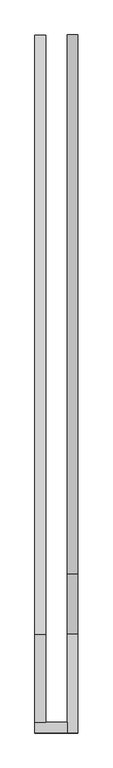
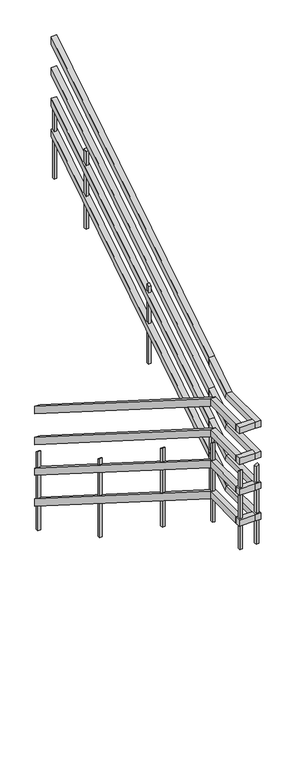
"""IFC4 building model written with IfcOpenShell, lengths in millimetres: railing geometry, RL780-금속재 난간."""

from ifc_helpers import new_model, si_unit, frame, origin, place, context, project, spatial, polyline, outline, extrude, faceted_brep, source, transform, mapped, element, save


def railing_68b9123f(model_context):
    return source(origin(), model_context, "Body", "SolidModel", [
        faceted_brep([(1249.8430136, 5200.0, 12531.8181818), (1299.8430136, 5200.0, 12531.8181818), (1299.8430136, 5200.0, 12460.8040061), (1249.8430136, 5200.0, 12460.8040061), (1249.8430136, 2400.0, 14304.5454545), (1249.8430136, 2400.0, 14233.5312788), (1299.8430136, 2400.0, 14233.5312788), (1299.8430136, 2400.0, 14304.5454545)], [[[0, 1, 2, 3]], [[4, 5, 6, 7]], [[1, 0, 4, 7]], [[2, 1, 7, 6]], [[3, 2, 6, 5]], [[0, 3, 5, 4]]]),
        faceted_brep([(1249.8430136, 5200.0, 12231.8181818), (1299.8430136, 5200.0, 12231.8181818), (1299.8430136, 5200.0, 12160.8040061), (1249.8430136, 5200.0, 12160.8040061), (1249.8430136, 2400.0, 14004.5454545), (1249.8430136, 2400.0, 13933.5312788), (1299.8430136, 2400.0, 13933.5312788), (1299.8430136, 2400.0, 14004.5454545)], [[[0, 1, 2, 3]], [[4, 5, 6, 7]], [[1, 0, 4, 7]], [[2, 1, 7, 6]], [[3, 2, 6, 5]], [[0, 3, 5, 4]]]),
        faceted_brep([(1249.8430136, 5200.0, 11931.8181818), (1299.8430136, 5200.0, 11931.8181818), (1299.8430136, 5200.0, 11860.8040061), (1249.8430136, 5200.0, 11860.8040061), (1249.8430136, 2400.0, 13704.5454545), (1249.8430136, 2400.0, 13633.5312788), (1299.8430136, 2400.0, 13633.5312788), (1299.8430136, 2400.0, 13704.5454545)], [[[0, 1, 2, 3]], [[4, 5, 6, 7]], [[1, 0, 4, 7]], [[2, 1, 7, 6]], [[3, 2, 6, 5]], [[0, 3, 5, 4]]]),
        faceted_brep([(1249.8430136, 5200.0, 11631.8181818), (1299.8430136, 5200.0, 11631.8181818), (1299.8430136, 5200.0, 11560.8040061), (1249.8430136, 5200.0, 11560.8040061), (1249.8430136, 2400.0, 13404.5454545), (1249.8430136, 2400.0, 13333.5312788), (1299.8430136, 2400.0, 13333.5312788), (1299.8430136, 2400.0, 13404.5454545)], [[[0, 1, 2, 3]], [[4, 5, 6, 7]], [[1, 0, 4, 7]], [[2, 1, 7, 6]], [[3, 2, 6, 5]], [[0, 3, 5, 4]]]),
        faceted_brep([(1249.8430136, 2400.0, 14304.5454545), (1299.8430136, 2400.0, 14304.5454545), (1299.8430136, 2400.0, 14244.5454545), (1249.8430136, 2400.0, 14244.5454545), (1249.8430136, 1987.4980432, 14304.5454545), (1249.8430136, 1987.4980432, 14244.5454545), (1299.8430136, 1987.4980432, 14244.5454545), (1299.8430136, 1987.4980432, 14304.5454545)], [[[0, 1, 2, 3]], [[4, 5, 6, 7]], [[1, 0, 4, 7]], [[2, 1, 7, 6]], [[3, 2, 6, 5]], [[0, 3, 5, 4]]]),
        faceted_brep([(1249.8430136, 1937.4980432, 14304.5454545), (1249.8430136, 1987.4980432, 14304.5454545), (1249.8430136, 1987.4980432, 14244.5454545), (1249.8430136, 1937.4980432, 14244.5454545), (1400.6430136, 1937.4980432, 14304.5454545), (1400.6430136, 1937.4980432, 14244.5454545), (1400.6430136, 1987.4980432, 14244.5454545), (1400.6430136, 1987.4980432, 14304.5454545)], [[[0, 1, 2, 3]], [[4, 5, 6, 7]], [[1, 0, 4, 7]], [[2, 1, 7, 6]], [[3, 2, 6, 5]], [[0, 3, 5, 4]]]),
        faceted_brep([(1450.6430136, 1937.4980432, 14304.5454545), (1400.6430136, 1937.4980432, 14304.5454545), (1400.6430136, 1937.4980432, 14244.5454545), (1450.6430136, 1937.4980432, 14244.5454545), (1450.6430136, 2400.0, 14304.5454545), (1400.6430136, 2400.0, 14304.5454545), (1400.6430136, 2417.3967494, 14244.5454545), (1450.6430136, 2680.0, 14481.8181818), (1450.6430136, 2680.0, 14410.8040061), (1400.6430136, 2680.0, 14410.8040061), (1400.6430136, 2680.0, 14481.8181818), (1450.6430136, 2417.3967494, 14244.5454545)], [[[0, 1, 2, 3]], [[1, 0, 4, 5]], [[2, 1, 5, 6]], [[7, 8, 9, 10]], [[5, 4, 7, 10]], [[6, 5, 10, 9]], [[3, 2, 6, 11]], [[0, 3, 11, 4]], [[11, 6, 9, 8]], [[4, 11, 8, 7]]]),
        faceted_brep([(1450.6430136, 2680.0, 14481.8181818), (1400.6430136, 2680.0, 14481.8181818), (1400.6430136, 2680.0, 14410.8040061), (1450.6430136, 2680.0, 14410.8040061), (1450.6430136, 5200.0, 16077.2727273), (1450.6430136, 5200.0, 16006.2585515), (1400.6430136, 5200.0, 16006.2585515), (1400.6430136, 5200.0, 16077.2727273)], [[[0, 1, 2, 3]], [[4, 5, 6, 7]], [[1, 0, 4, 7]], [[2, 1, 7, 6]], [[3, 2, 6, 5]], [[0, 3, 5, 4]]]),
        faceted_brep([(1249.8430136, 2400.0, 14004.5454545), (1299.8430136, 2400.0, 14004.5454545), (1299.8430136, 2400.0, 13944.5454545), (1249.8430136, 2400.0, 13944.5454545), (1249.8430136, 1987.4980432, 14004.5454545), (1249.8430136, 1987.4980432, 13944.5454545), (1299.8430136, 1987.4980432, 13944.5454545), (1299.8430136, 1987.4980432, 14004.5454545)], [[[0, 1, 2, 3]], [[4, 5, 6, 7]], [[1, 0, 4, 7]], [[2, 1, 7, 6]], [[3, 2, 6, 5]], [[0, 3, 5, 4]]]),
        faceted_brep([(1249.8430136, 1937.4980432, 14004.5454545), (1249.8430136, 1987.4980432, 14004.5454545), (1249.8430136, 1987.4980432, 13944.5454545), (1249.8430136, 1937.4980432, 13944.5454545), (1400.6430136, 1937.4980432, 14004.5454545), (1400.6430136, 1937.4980432, 13944.5454545), (1400.6430136, 1987.4980432, 13944.5454545), (1400.6430136, 1987.4980432, 14004.5454545)], [[[0, 1, 2, 3]], [[4, 5, 6, 7]], [[1, 0, 4, 7]], [[2, 1, 7, 6]], [[3, 2, 6, 5]], [[0, 3, 5, 4]]]),
        faceted_brep([(1450.6430136, 1937.4980432, 14004.5454545), (1400.6430136, 1937.4980432, 14004.5454545), (1400.6430136, 1937.4980432, 13944.5454545), (1450.6430136, 1937.4980432, 13944.5454545), (1450.6430136, 2400.0, 14004.5454545), (1400.6430136, 2400.0, 14004.5454545), (1400.6430136, 2417.3967494, 13944.5454545), (1450.6430136, 2680.0, 14181.8181818), (1450.6430136, 2680.0, 14110.8040061), (1400.6430136, 2680.0, 14110.8040061), (1400.6430136, 2680.0, 14181.8181818), (1450.6430136, 2417.3967494, 13944.5454545)], [[[0, 1, 2, 3]], [[1, 0, 4, 5]], [[2, 1, 5, 6]], [[7, 8, 9, 10]], [[5, 4, 7, 10]], [[6, 5, 10, 9]], [[3, 2, 6, 11]], [[0, 3, 11, 4]], [[11, 6, 9, 8]], [[4, 11, 8, 7]]]),
        faceted_brep([(1450.6430136, 2680.0, 14181.8181818), (1400.6430136, 2680.0, 14181.8181818), (1400.6430136, 2680.0, 14110.8040061), (1450.6430136, 2680.0, 14110.8040061), (1450.6430136, 5200.0, 15777.2727273), (1450.6430136, 5200.0, 15706.2585515), (1400.6430136, 5200.0, 15706.2585515), (1400.6430136, 5200.0, 15777.2727273)], [[[0, 1, 2, 3]], [[4, 5, 6, 7]], [[1, 0, 4, 7]], [[2, 1, 7, 6]], [[3, 2, 6, 5]], [[0, 3, 5, 4]]]),
        faceted_brep([(1249.8430136, 2400.0, 13704.5454545), (1299.8430136, 2400.0, 13704.5454545), (1299.8430136, 2400.0, 13644.5454545), (1249.8430136, 2400.0, 13644.5454545), (1249.8430136, 1987.4980432, 13704.5454545), (1249.8430136, 1987.4980432, 13644.5454545), (1299.8430136, 1987.4980432, 13644.5454545), (1299.8430136, 1987.4980432, 13704.5454545)], [[[0, 1, 2, 3]], [[4, 5, 6, 7]], [[1, 0, 4, 7]], [[2, 1, 7, 6]], [[3, 2, 6, 5]], [[0, 3, 5, 4]]]),
        faceted_brep([(1249.8430136, 1937.4980432, 13704.5454545), (1249.8430136, 1987.4980432, 13704.5454545), (1249.8430136, 1987.4980432, 13644.5454545), (1249.8430136, 1937.4980432, 13644.5454545), (1400.6430136, 1937.4980432, 13704.5454545), (1400.6430136, 1937.4980432, 13644.5454545), (1400.6430136, 1987.4980432, 13644.5454545), (1400.6430136, 1987.4980432, 13704.5454545)], [[[0, 1, 2, 3]], [[4, 5, 6, 7]], [[1, 0, 4, 7]], [[2, 1, 7, 6]], [[3, 2, 6, 5]], [[0, 3, 5, 4]]]),
        faceted_brep([(1450.6430136, 1937.4980432, 13704.5454545), (1400.6430136, 1937.4980432, 13704.5454545), (1400.6430136, 1937.4980432, 13644.5454545), (1450.6430136, 1937.4980432, 13644.5454545), (1450.6430136, 2400.0, 13704.5454545), (1400.6430136, 2400.0, 13704.5454545), (1400.6430136, 2417.3967494, 13644.5454545), (1450.6430136, 2680.0, 13881.8181818), (1450.6430136, 2680.0, 13810.8040061), (1400.6430136, 2680.0, 13810.8040061), (1400.6430136, 2680.0, 13881.8181818), (1450.6430136, 2417.3967494, 13644.5454545)], [[[0, 1, 2, 3]], [[1, 0, 4, 5]], [[2, 1, 5, 6]], [[7, 8, 9, 10]], [[5, 4, 7, 10]], [[6, 5, 10, 9]], [[3, 2, 6, 11]], [[0, 3, 11, 4]], [[11, 6, 9, 8]], [[4, 11, 8, 7]]]),
        faceted_brep([(1450.6430136, 2680.0, 13881.8181818), (1400.6430136, 2680.0, 13881.8181818), (1400.6430136, 2680.0, 13810.8040061), (1450.6430136, 2680.0, 13810.8040061), (1450.6430136, 5200.0, 15477.2727273), (1450.6430136, 5200.0, 15406.2585515), (1400.6430136, 5200.0, 15406.2585515), (1400.6430136, 5200.0, 15477.2727273)], [[[0, 1, 2, 3]], [[4, 5, 6, 7]], [[1, 0, 4, 7]], [[2, 1, 7, 6]], [[3, 2, 6, 5]], [[0, 3, 5, 4]]]),
        faceted_brep([(1249.8430136, 2400.0, 13404.5454545), (1299.8430136, 2400.0, 13404.5454545), (1299.8430136, 2400.0, 13344.5454545), (1249.8430136, 2400.0, 13344.5454545), (1249.8430136, 1987.4980432, 13404.5454545), (1249.8430136, 1987.4980432, 13344.5454545), (1299.8430136, 1987.4980432, 13344.5454545), (1299.8430136, 1987.4980432, 13404.5454545)], [[[0, 1, 2, 3]], [[4, 5, 6, 7]], [[1, 0, 4, 7]], [[2, 1, 7, 6]], [[3, 2, 6, 5]], [[0, 3, 5, 4]]]),
        faceted_brep([(1249.8430136, 1937.4980432, 13404.5454545), (1249.8430136, 1987.4980432, 13404.5454545), (1249.8430136, 1987.4980432, 13344.5454545), (1249.8430136, 1937.4980432, 13344.5454545), (1400.6430136, 1937.4980432, 13404.5454545), (1400.6430136, 1937.4980432, 13344.5454545), (1400.6430136, 1987.4980432, 13344.5454545), (1400.6430136, 1987.4980432, 13404.5454545)], [[[0, 1, 2, 3]], [[4, 5, 6, 7]], [[1, 0, 4, 7]], [[2, 1, 7, 6]], [[3, 2, 6, 5]], [[0, 3, 5, 4]]]),
        faceted_brep([(1450.6430136, 1937.4980432, 13404.5454545), (1400.6430136, 1937.4980432, 13404.5454545), (1400.6430136, 1937.4980432, 13344.5454545), (1450.6430136, 1937.4980432, 13344.5454545), (1450.6430136, 2400.0, 13404.5454545), (1400.6430136, 2400.0, 13404.5454545), (1400.6430136, 2417.3967494, 13344.5454545), (1450.6430136, 2680.0, 13581.8181818), (1450.6430136, 2680.0, 13510.8040061), (1400.6430136, 2680.0, 13510.8040061), (1400.6430136, 2680.0, 13581.8181818), (1450.6430136, 2417.3967494, 13344.5454545)], [[[0, 1, 2, 3]], [[1, 0, 4, 5]], [[2, 1, 5, 6]], [[7, 8, 9, 10]], [[5, 4, 7, 10]], [[6, 5, 10, 9]], [[3, 2, 6, 11]], [[0, 3, 11, 4]], [[11, 6, 9, 8]], [[4, 11, 8, 7]]]),
        faceted_brep([(1450.6430136, 2680.0, 13581.8181818), (1400.6430136, 2680.0, 13581.8181818), (1400.6430136, 2680.0, 13510.8040061), (1450.6430136, 2680.0, 13510.8040061), (1450.6430136, 5200.0, 15177.2727273), (1450.6430136, 5200.0, 15106.2585515), (1400.6430136, 5200.0, 15106.2585515), (1400.6430136, 5200.0, 15177.2727273)], [[[0, 1, 2, 3]], [[4, 5, 6, 7]], [[1, 0, 4, 7]], [[2, 1, 7, 6]], [[3, 2, 6, 5]], [[0, 3, 5, 4]]]),
        extrude(outline(polyline([(4692.5, 15292.6814527), (4692.5, 14522.7272727), (4667.5, 14522.7272727), (4667.5, 15276.7730927), (4692.5, 15292.6814527)])), frame((1413.1430136, 0.0, 0.0), z_axis=(1.0, 0.0, 0.0), x_axis=(0.0, 1.0, 0.0)), (0.0, 0.0, 1.0), 25.0),
        extrude(outline(polyline([(3692.5, 14583.5905436), (3692.5, 13813.6363636), (3667.5, 13813.6363636), (3667.5, 14567.6821836), (3692.5, 14583.5905436)])), frame((1413.1430136, 0.0, 0.0), z_axis=(1.0, 0.0, 0.0), x_axis=(0.0, 1.0, 0.0)), (0.0, 0.0, 1.0), 25.0),
        extrude(outline(polyline([(3212.5, 13326.7730927), (3212.5, 12572.7272727), (3187.5, 12572.7272727), (3187.5, 13342.6814527), (3212.5, 13326.7730927)])), frame((1262.3430136, 0.0, 0.0), z_axis=(1.0, 0.0, 0.0), x_axis=(0.0, 1.0, 0.0)), (0.0, 0.0, 1.0), 25.0),
        extrude(outline(polyline([(4212.5, 12617.6821836), (4212.5, 11863.6363636), (4187.5, 11863.6363636), (4187.5, 12633.5905436), (4212.5, 12617.6821836)])), frame((1262.3430136, 0.0, 0.0), z_axis=(1.0, 0.0, 0.0), x_axis=(0.0, 1.0, 0.0)), (0.0, 0.0, 1.0), 25.0),
        extrude(outline(polyline([(2692.5, 13874.4996346), (2692.5, 13104.5454545), (2667.5, 13104.5454545), (2667.5, 13858.5912745), (2692.5, 13874.4996346)])), frame((1413.1430136, 0.0, 0.0), z_axis=(1.0, 0.0, 0.0), x_axis=(0.0, 1.0, 0.0)), (0.0, 0.0, 1.0), 25.0),
        extrude(outline(polyline([(13858.5912745, 1413.1430136), (13104.5454545, 1413.1430136), (13104.5454545, 1438.1430136), (13874.4996346, 1438.1430136), (13858.5912745, 1413.1430136)])), frame((0.0, 1949.9980432, 0.0), z_axis=(0.0, 1.0, 0.0), x_axis=(0.0, 0.0, 1.0)), (0.0, 0.0, 1.0), 25.0),
        extrude(outline(polyline([(1974.9980432, 13858.5912745), (1974.9980432, 13104.5454545), (1949.9980432, 13104.5454545), (1949.9980432, 13874.4996346), (1974.9980432, 13858.5912745)])), frame((1262.3430136, 0.0, 0.0), z_axis=(1.0, 0.0, 0.0), x_axis=(0.0, 1.0, 0.0)), (0.0, 0.0, 1.0), 25.0),
        extrude(outline(polyline([(2412.5, 13858.5912745), (2412.5, 13104.5454545), (2387.5, 13104.5454545), (2387.5, 13874.4996346), (2412.5, 13858.5912745)])), frame((1262.3430136, 0.0, 0.0), z_axis=(1.0, 0.0, 0.0), x_axis=(0.0, 1.0, 0.0)), (0.0, 0.0, 1.0), 25.0),
        extrude(outline(polyline([(5200.0, 15469.95418), (5200.0, 14700.0), (5175.0, 14700.0), (5175.0, 15454.04582), (5200.0, 15469.95418)])), frame((1413.1430136, 0.0, 0.0), z_axis=(1.0, 0.0, 0.0), x_axis=(0.0, 1.0, 0.0)), (0.0, 0.0, 1.0), 25.0),
        extrude(outline(polyline([(5200.0, 12085.8640018), (5200.0, 11331.8181818), (5175.0, 11331.8181818), (5175.0, 12101.7723618), (5200.0, 12085.8640018)])), frame((1262.3430136, 0.0, 0.0), z_axis=(1.0, 0.0, 0.0), x_axis=(0.0, 1.0, 0.0)), (0.0, 0.0, 1.0), 25.0),
    ])


if __name__ == "__main__":
    model = new_model("IFC4")
    model_context = context("Model", 3, world=origin())
    ifc_project = project(units=[si_unit("LENGTHUNIT", "METRE", prefix="MILLI")], contexts=[model_context])
    site = spatial("IfcSite", under=ifc_project)
    building = spatial("IfcBuilding", under=site)
    placement = place(None, origin())
    railing_shape = railing_68b9123f(model_context)
    element("IfcRailing", 1, ObjectType="RL780-금속재 난간", at=placement, inside=building, context=model_context, shape_type="MappedRepresentation", body=[
        mapped(railing_shape, transform((0.0, 0.0, 0.0), x_axis=(1.0, 0.0, 0.0), y_axis=(0.0, 1.0, 0.0), z_axis=(0.0, 0.0, 1.0))),
    ])
    save(model, "model.ifc")
